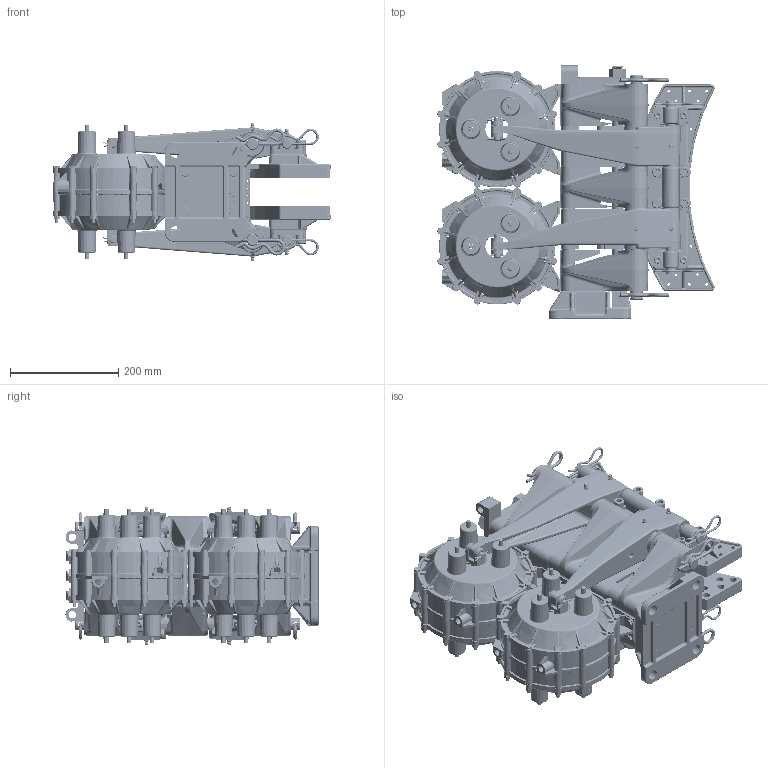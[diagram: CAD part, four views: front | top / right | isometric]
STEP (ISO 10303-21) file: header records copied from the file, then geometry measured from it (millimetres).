
FILE_DESCRIPTION (( 'STEP AP214' ), '1' );
FILE_NAME ('5027-A.STEP', '2018-09-04T21:48:35', ( 'User' ), ( 'Hewlett-Packard Company' ), 'SwSTEP 2.0', 'SolidWorks 2017', '' );
FILE_SCHEMA (( 'AUTOMOTIVE_DESIGN' ));
Length unit declared in the file: inch
Products named in the file (1): 5027-A
Bounding box: 512.16 x 467.23 x 254.38 mm (x, y, z)
Surface area: 1957240.5 mm2 (no closed solid volume)
Topology: 0 solids, 309 shells, 7178 faces, 22413 edges, 14692 vertices
Faces by surface type: cylinder 1877, plane 1696, bspline 1494, cone 1155, torus 895, sphere 61
Entity records: 471721 total; most frequent: CARTESIAN_POINT 200592, ORIENTED_EDGE 35949, DIRECTION 34846, EDGE_CURVE 22362, VERTEX_POINT 14692, AXIS2_PLACEMENT_3D 14335, CIRCLE 8650, EDGE_LOOP 7879
